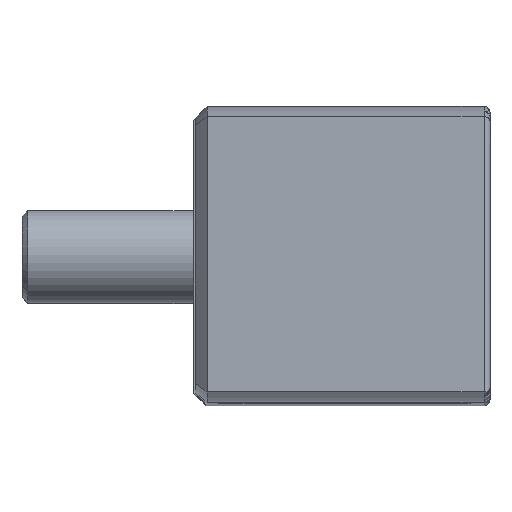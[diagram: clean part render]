
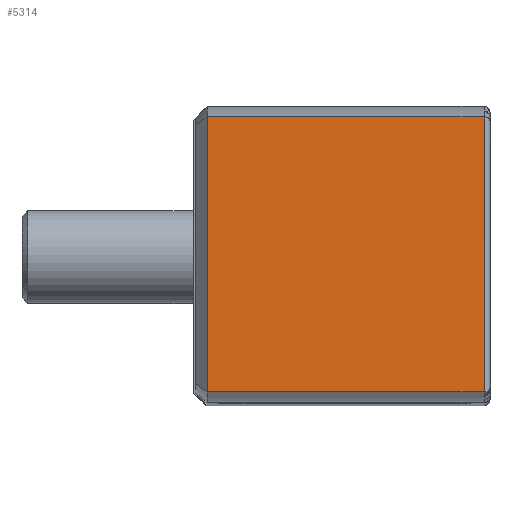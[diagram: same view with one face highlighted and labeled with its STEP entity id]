
A CAD part, top view. The second image highlights one B-rep face of the part: STEP entity #5314.
In plain terms, the highlighted planar face has unit normal (0, 0, 1).
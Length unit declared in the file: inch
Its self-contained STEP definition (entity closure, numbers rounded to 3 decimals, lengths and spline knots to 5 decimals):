
#191 = VECTOR ( 'NONE', #3256, 39.37008 ) ;
#261 = EDGE_LOOP ( 'NONE', ( #5506, #5483, #343, #5208 ) ) ;
#343 = ORIENTED_EDGE ( 'NONE', *, *, #5080, .T. ) ;
#406 = VECTOR ( 'NONE', #2651, 39.37008 ) ;
#440 = CARTESIAN_POINT ( 'NONE',  ( -1., 0.46453, 4.625 ) ) ;
#760 = PLANE ( 'NONE',  #1130 ) ;
#831 = CARTESIAN_POINT ( 'NONE',  ( -0.02, 0.46453, 4.625 ) ) ;
#1130 = AXIS2_PLACEMENT_3D ( 'NONE', #3329, #1132, #1574 ) ;
#1132 = DIRECTION ( 'NONE',  ( 0., 0., 1. ) ) ;
#1574 = DIRECTION ( 'NONE',  ( 0., -1., 0. ) ) ;
#1589 = VERTEX_POINT ( 'NONE', #3672 ) ;
#1641 = DIRECTION ( 'NONE',  ( 0., 1., 0. ) ) ;
#1919 = CARTESIAN_POINT ( 'NONE',  ( -1., -0.46453, 4.625 ) ) ;
#1940 = VERTEX_POINT ( 'NONE', #2185 ) ;
#2185 = CARTESIAN_POINT ( 'NONE',  ( -0.02, -0.46453, 4.625 ) ) ;
#2533 = LINE ( 'NONE', #1919, #191 ) ;
#2651 = DIRECTION ( 'NONE',  ( 1., 0., 0. ) ) ;
#2661 = EDGE_CURVE ( 'NONE', #3294, #1589, #3933, .T. ) ;
#3256 = DIRECTION ( 'NONE',  ( 1., 0., 0. ) ) ;
#3294 = VERTEX_POINT ( 'NONE', #5038 ) ;
#3329 = CARTESIAN_POINT ( 'NONE',  ( -1., -0.46453, 4.625 ) ) ;
#3434 = LINE ( 'NONE', #4269, #4544 ) ;
#3672 = CARTESIAN_POINT ( 'NONE',  ( -0.02, 0.46453, 4.625 ) ) ;
#3692 = EDGE_CURVE ( 'NONE', #1940, #1589, #5336, .T. ) ;
#3871 = VERTEX_POINT ( 'NONE', #4103 ) ;
#3933 = LINE ( 'NONE', #440, #406 ) ;
#4103 = CARTESIAN_POINT ( 'NONE',  ( -0.955, -0.46453, 4.625 ) ) ;
#4136 = FACE_OUTER_BOUND ( 'NONE', #261, .T. ) ;
#4165 = VECTOR ( 'NONE', #1641, 39.37008 ) ;
#4269 = CARTESIAN_POINT ( 'NONE',  ( -0.955, -0.42225, 4.625 ) ) ;
#4517 = EDGE_CURVE ( 'NONE', #3294, #3871, #3434, .T. ) ;
#4544 = VECTOR ( 'NONE', #5649, 39.37008 ) ;
#5038 = CARTESIAN_POINT ( 'NONE',  ( -0.955, 0.46453, 4.625 ) ) ;
#5080 = EDGE_CURVE ( 'NONE', #3871, #1940, #2533, .T. ) ;
#5208 = ORIENTED_EDGE ( 'NONE', *, *, #3692, .T. ) ;
#5314 = ADVANCED_FACE ( 'NONE', ( #4136 ), #760, .T. ) ;
#5336 = LINE ( 'NONE', #831, #4165 ) ;
#5483 = ORIENTED_EDGE ( 'NONE', *, *, #4517, .T. ) ;
#5506 = ORIENTED_EDGE ( 'NONE', *, *, #2661, .F. ) ;
#5649 = DIRECTION ( 'NONE',  ( 0., -1., 0. ) ) ;
